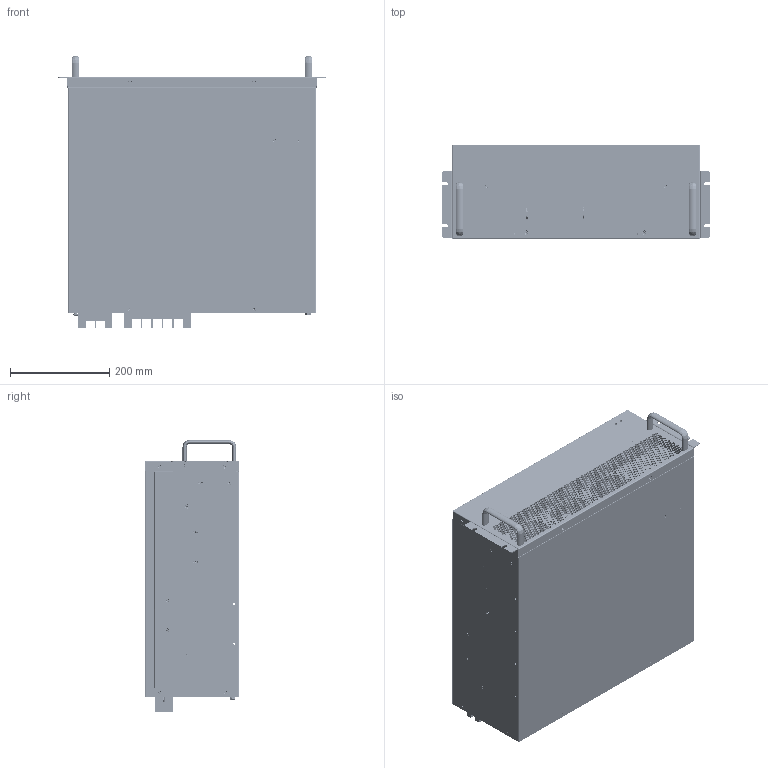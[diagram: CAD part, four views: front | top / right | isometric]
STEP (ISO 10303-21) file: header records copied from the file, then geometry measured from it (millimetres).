
FILE_DESCRIPTION (( 'STEP AP203' ), '1' );
FILE_NAME ('2D50K×°ÅäÌå20240906B.STEP', '2024-10-08T07:55:05', ( '' ), ( '' ), 'SwSTEP 2.0', 'SolidWorks 2020', '' );
FILE_SCHEMA (( 'CONFIG_CONTROL_DESIGN' ));
Length unit declared in the file: millimetre
Products named in the file (22): 2D50K蚾饜极20240906.STEP; 16X38____220607.STEP; cross recessed hex bolts indentation gb_GB_FASTENER_BOLT_CRHHI M6X10-N; 2D50K蚾饜极20240906B; ____0807.STEP; PCB_MFPORT1R0_50KVAR0823.STEP; cross recessed ctsk wood screws gb_GB_WOOD_SCREWS_TYPE135 4X12-N; ______0807-2.STEP; YSB.STEP; 5__100A____.STEP; ______-3.STEP; IGBT____.STEP; ______0807.STEP; 135____0810.STEP; ______0807-0.STEP; ______.STEP; ________.STEP; 2__100A____.STEP; 80__________0807.STEP; ______0807-1.STEP; 50kvar____0807.STEP; ____RGS11.STEP
Assembly tree (74 placements, depth 3):
  2D50K蚾饜极20240906B
    2D50K蚾饜极20240906.STEP
      50kvar____0807.STEP
      ______0807.STEP
      ______0807-0.STEP
      ____0807.STEP
      ______0807-1.STEP
      80__________0807.STEP
      5__100A____.STEP
      2__100A____.STEP
      135____0810.STEP  x2
      ____RGS11.STEP  x3
      ________.STEP  x5
      ______0807-2.STEP
      ______.STEP
      YSB.STEP
      IGBT____.STEP  x5
      ______-3.STEP
      PCB_MFPORT1R0_50KVAR0823.STEP
      16X38____220607.STEP  x2
    cross recessed ctsk wood screws gb_GB_WOOD_SCREWS_TYPE135 4X12-N  x41
    cross recessed hex bolts indentation gb_GB_FASTENER_BOLT_CRHHI M6X10-N  x2
Bounding box: 540 x 190 x 548.74 mm (x, y, z)
Volume: 5757610.1 mm3; surface area: 2782845 mm2
Topology: 86 solids, 302 shells, 12778 faces, 39914 edges, 27583 vertices
Faces by surface type: plane 10696, cylinder 1726, cone 208, bspline 105, torus 43
Full cylindrical faces by diameter (mm): 4 x41, 5.2 x2, 6 x2, 8 x41, 8.7 x2
Entity records: 448422 total; most frequent: CARTESIAN_POINT 128232, ORIENTED_EDGE 69575, DIRECTION 51785, EDGE_CURVE 37607, VERTEX_POINT 26250, LINE 25335, VECTOR 25335, EDGE_LOOP 15740
